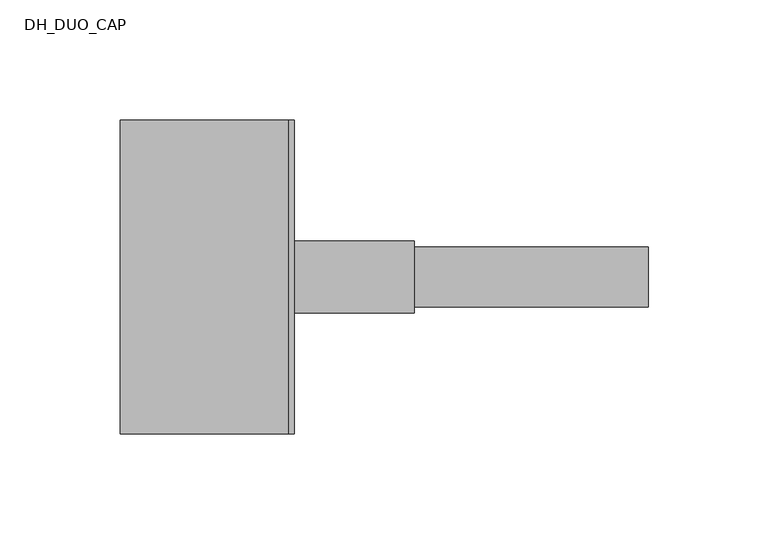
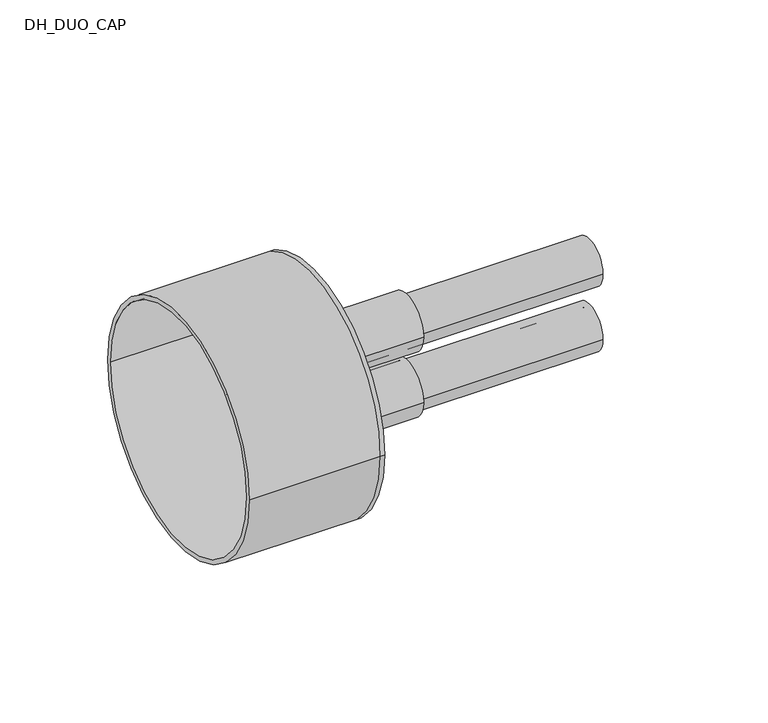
"""IFC4 building model written with IfcOpenShell, lengths in millimetres: pipe fitting geometry, DH_DUO_CAP : RAUTHERMEX DUO ++ 7.4 Heating - Schrink Cap."""

from ifc_helpers import new_model, si_unit, point, frame, frame_2d, origin, place, context, project, spatial, polyline, circle_curve, trimmed, segment, composite_curve, outline, extrude, source, transform, mapped, element, save
from ifc_brep_helpers import plane_surface, cylinder_surface, revolved_surface, advanced_brep


def dh_duo_cap_c599dcdc(model_context):
    return source(origin(), model_context, "Body", "SolidModel", [
        extrude(outline(composite_curve([segment(trimmed(circle_curve(frame_2d((0.0, -18.5)), 12.5), [point((-12.5, -18.5))], [point((12.5, -18.5))], False, "CARTESIAN"), True, "CONTINUOUS"), segment(trimmed(circle_curve(frame_2d((0.0, -18.5)), 12.5), [point((12.5, -18.5))], [point((-12.5, -18.5))], False, "CARTESIAN"), True, "CONTINUOUS")], self_intersect=False), holes=[composite_curve([segment(trimmed(circle_curve(frame_2d((0.0, -18.5)), 9.0), [point((-9.0, -18.5))], [point((9.0, -18.5))], True, "CARTESIAN"), True, "CONTINUOUS"), segment(trimmed(circle_curve(frame_2d((0.0, -18.5)), 9.0), [point((9.0, -18.5))], [point((-9.0, -18.5))], True, "CARTESIAN"), True, "CONTINUOUS")], self_intersect=False)]), frame((0.0, 0.0, 0.0), z_axis=(1.0, 0.0, 0.0), x_axis=(0.0, 1.0, 0.0)), (0.0, 0.0, 1.0), 150.0),
        extrude(outline(composite_curve([segment(trimmed(circle_curve(frame_2d((0.0, 18.5)), 12.5), [point((-12.5, 18.5))], [point((12.5, 18.5))], False, "CARTESIAN"), True, "CONTINUOUS"), segment(trimmed(circle_curve(frame_2d((0.0, 18.5)), 12.5), [point((12.5, 18.5))], [point((-12.5, 18.5))], False, "CARTESIAN"), True, "CONTINUOUS")], self_intersect=False), holes=[composite_curve([segment(trimmed(circle_curve(frame_2d((0.0, 18.5)), 9.0), [point((-9.0, 18.5))], [point((9.0, 18.5))], True, "CARTESIAN"), True, "CONTINUOUS"), segment(trimmed(circle_curve(frame_2d((0.0, 18.5)), 9.0), [point((9.0, 18.5))], [point((-9.0, 18.5))], True, "CARTESIAN"), True, "CONTINUOUS")], self_intersect=False)]), frame((0.0, 0.0, 0.0), z_axis=(1.0, 0.0, 0.0), x_axis=(0.0, 1.0, 0.0)), (0.0, 0.0, 1.0), 150.0),
        advanced_brep(
        [(-70.0, -65.5, 0.0), (-70.0, 65.5, 0.0), (-70.0, -63.0, 0.0), (-70.0, 63.0, 0.0), (0.0, -63.0, 0.0), (0.0, 63.0, 0.0), (0.0, -65.5, 0.0), (0.0, 65.5, 0.0), (0.0, 12.5, 18.5), (0.0, -12.5, 18.5), (0.0, 12.5, -18.5), (0.0, -12.5, -18.5), (2.5, -65.5, 0.0), (2.5, 65.5, 0.0), (2.5, -12.5, 18.5), (2.5, 12.5, 18.5), (2.5, -12.5, -18.5), (2.5, 12.5, -18.5)],
        [
            (0, 1, circle_curve(frame((-70.0, 0.0, 0.0), z_axis=(-1.0, 0.0, 0.0), x_axis=(0.0, 1.0, 0.0)), 65.5)),
            (1, 0, circle_curve(frame((-70.0, 0.0, 0.0), z_axis=(-1.0, 0.0, 0.0), x_axis=(0.0, 1.0, 0.0)), 65.5)),
            (2, 3, circle_curve(frame((-70.0, 0.0, 0.0), z_axis=(1.0, 0.0, 0.0), x_axis=(0.0, 1.0, 0.0)), 63.0)),
            (3, 2, circle_curve(frame((-70.0, 0.0, 0.0), z_axis=(1.0, 0.0, 0.0), x_axis=(0.0, 1.0, 0.0)), 63.0)),
            (2, 4),
            (4, 5, circle_curve(frame((0.0, 0.0, 0.0), z_axis=(1.0, 0.0, 0.0), x_axis=(0.0, 1.0, 0.0)), 63.0)),
            (5, 3),
            (5, 4, circle_curve(frame((0.0, 0.0, 0.0), z_axis=(1.0, 0.0, 0.0), x_axis=(0.0, 1.0, 0.0)), 63.0)),
            (0, 6),
            (6, 7, circle_curve(frame((0.0, 0.0, 0.0), z_axis=(-1.0, 0.0, 0.0), x_axis=(0.0, 1.0, 0.0)), 65.5)),
            (7, 1),
            (7, 6, circle_curve(frame((0.0, 0.0, 0.0), z_axis=(-1.0, 0.0, 0.0), x_axis=(0.0, 1.0, 0.0)), 65.5)),
            (8, 9, circle_curve(frame((0.0, 0.0, 18.5), z_axis=(1.0, 0.0, 0.0), x_axis=(0.0, 1.0, 0.0)), 12.5)),
            (9, 8, circle_curve(frame((0.0, 0.0, 18.5), z_axis=(1.0, 0.0, 0.0), x_axis=(0.0, 1.0, 0.0)), 12.5)),
            (10, 11, circle_curve(frame((0.0, 0.0, -18.5), z_axis=(1.0, 0.0, 0.0), x_axis=(0.0, 1.0, 0.0)), 12.5)),
            (11, 10, circle_curve(frame((0.0, 0.0, -18.5), z_axis=(1.0, 0.0, 0.0), x_axis=(0.0, 1.0, 0.0)), 12.5)),
            (12, 13, circle_curve(frame((2.5, 0.0, 0.0), z_axis=(1.0, 0.0, 0.0), x_axis=(0.0, 1.0, 0.0)), 65.5)),
            (13, 12, circle_curve(frame((2.5, 0.0, 0.0), z_axis=(1.0, 0.0, 0.0), x_axis=(0.0, 1.0, 0.0)), 65.5)),
            (14, 15, circle_curve(frame((2.5, 0.0, 18.5), z_axis=(-1.0, 0.0, 0.0), x_axis=(0.0, 1.0, 0.0)), 12.5)),
            (15, 14, circle_curve(frame((2.5, 0.0, 18.5), z_axis=(-1.0, 0.0, 0.0), x_axis=(0.0, 1.0, 0.0)), 12.5)),
            (16, 17, circle_curve(frame((2.5, 0.0, -18.5), z_axis=(-1.0, 0.0, 0.0), x_axis=(0.0, 1.0, 0.0)), 12.5)),
            (17, 16, circle_curve(frame((2.5, 0.0, -18.5), z_axis=(-1.0, 0.0, 0.0), x_axis=(0.0, 1.0, 0.0)), 12.5)),
            (13, 7),
            (6, 12),
            (8, 15),
            (14, 9),
            (10, 17),
            (16, 11),
        ],
        [
            plane_surface(frame((-70.0, 0.0, 0.0), z_axis=(-1.0, 0.0, 0.0), x_axis=(0.0, 0.0, 1.0))),
            revolved_surface(polyline([(0.0, 63.0, 0.0), (-70.0, 63.0, 0.0)]), (-70.0, 0.0, 0.0), (1.0, 0.0, 0.0)),
            cylinder_surface(frame((-70.0, 0.0, 0.0), z_axis=(-1.0, 0.0, 0.0), x_axis=(0.0, 1.0, 0.0)), 65.5),
            plane_surface(frame((0.0, 0.0, 0.0), z_axis=(-1.0, 0.0, 0.0), x_axis=(0.0, 0.0, 1.0))),
            plane_surface(frame((2.5, 0.0, 0.0), z_axis=(1.0, 0.0, 0.0), x_axis=(0.0, 0.0, 1.0))),
            cylinder_surface(frame((0.0, 0.0, 0.0), z_axis=(-1.0, 0.0, 0.0), x_axis=(0.0, 1.0, 0.0)), 65.5),
            revolved_surface(polyline([(0.0, 12.5, 18.5), (2.5, 12.5, 18.5)]), (0.0, 0.0, 18.5), (-1.0, 0.0, 0.0)),
            revolved_surface(polyline([(0.0, 12.5, -18.5), (2.5, 12.5, -18.5)]), (0.0, 0.0, -18.5), (-1.0, 0.0, 0.0)),
        ],
        [
            (0, [[1, 2], [3, 4]]),
            (1, [[-3, 5, 6, 7]]),
            (1, [[-4, -7, 8, -5]]),
            (2, [[-1, 9, 10, 11]]),
            (2, [[-2, -11, 12, -9]]),
            (3, [[-6, -8], [13, 14], [15, 16]]),
            (4, [[17, 18], [19, 20], [21, 22]]),
            (5, [[-18, 23, -10, 24]]),
            (5, [[-17, -24, -12, -23]]),
            (6, [[25, -19, 26, -13]]),
            (6, [[-25, -14, -26, -20]]),
            (7, [[27, -21, 28, -15]]),
            (7, [[-27, -16, -28, -22]]),
        ],
    ),
        extrude(outline(composite_curve([segment(trimmed(circle_curve(frame_2d((0.0, -18.5)), 15.0), [point((-15.0, -18.5))], [point((15.0, -18.5))], False, "CARTESIAN"), True, "CONTINUOUS"), segment(trimmed(circle_curve(frame_2d((0.0, -18.5)), 15.0), [point((15.0, -18.5))], [point((-15.0, -18.5))], False, "CARTESIAN"), True, "CONTINUOUS")], self_intersect=False), holes=[composite_curve([segment(trimmed(circle_curve(frame_2d((0.0, -18.5)), 12.5), [point((-12.5, -18.5))], [point((12.5, -18.5))], True, "CARTESIAN"), True, "CONTINUOUS"), segment(trimmed(circle_curve(frame_2d((0.0, -18.5)), 12.5), [point((12.5, -18.5))], [point((-12.5, -18.5))], True, "CARTESIAN"), True, "CONTINUOUS")], self_intersect=False)]), frame((2.5, 0.0, 0.0), z_axis=(1.0, 0.0, 0.0), x_axis=(0.0, 1.0, 0.0)), (0.0, 0.0, 1.0), 50.0),
        extrude(outline(composite_curve([segment(trimmed(circle_curve(frame_2d((0.0, 18.5)), 15.0), [point((-15.0, 18.5))], [point((15.0, 18.5))], False, "CARTESIAN"), True, "CONTINUOUS"), segment(trimmed(circle_curve(frame_2d((0.0, 18.5)), 15.0), [point((15.0, 18.5))], [point((-15.0, 18.5))], False, "CARTESIAN"), True, "CONTINUOUS")], self_intersect=False), holes=[composite_curve([segment(trimmed(circle_curve(frame_2d((0.0, 18.5)), 12.5), [point((-12.5, 18.5))], [point((12.5, 18.5))], True, "CARTESIAN"), True, "CONTINUOUS"), segment(trimmed(circle_curve(frame_2d((0.0, 18.5)), 12.5), [point((12.5, 18.5))], [point((-12.5, 18.5))], True, "CARTESIAN"), True, "CONTINUOUS")], self_intersect=False)]), frame((2.5, 0.0, 0.0), z_axis=(1.0, 0.0, 0.0), x_axis=(0.0, 1.0, 0.0)), (0.0, 0.0, 1.0), 50.0),
    ])


if __name__ == "__main__":
    model = new_model("IFC4")
    model_context = context("Model", 3, world=origin())
    ifc_project = project(units=[si_unit("LENGTHUNIT", "METRE", prefix="MILLI")], contexts=[model_context])
    site = spatial("IfcSite", under=ifc_project)
    building = spatial("IfcBuilding", under=site)
    placement = place(None, origin())
    dh_duo_cap_shape = dh_duo_cap_c599dcdc(model_context)
    element("IfcPipeFitting", 1, ObjectType="DH_DUO_CAP : RAUTHERMEX DUO ++ 7.4 Heating - Schrink Cap", at=placement, inside=building, context=model_context, shape_type="MappedRepresentation", body=[
        mapped(dh_duo_cap_shape, transform((0.0, 0.0, 0.0), x_axis=(1.0, 0.0, 0.0), y_axis=(0.0, 1.0, 0.0), z_axis=(0.0, 0.0, 1.0))),
    ])
    save(model, "model.ifc")
